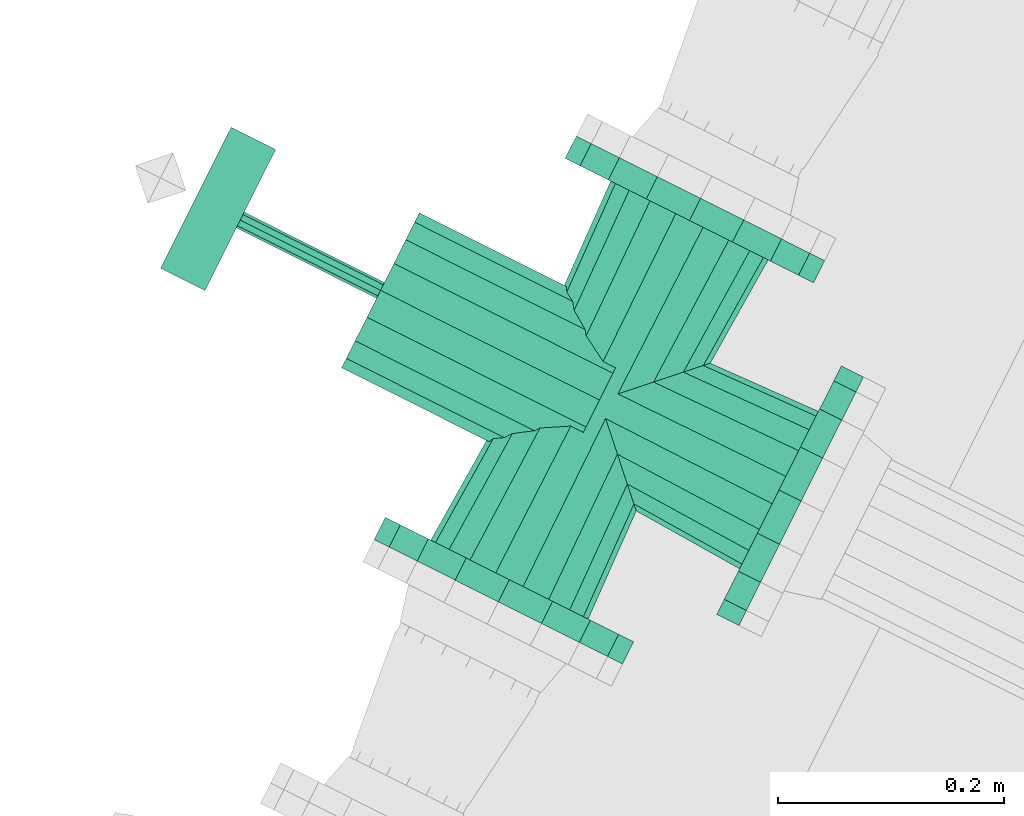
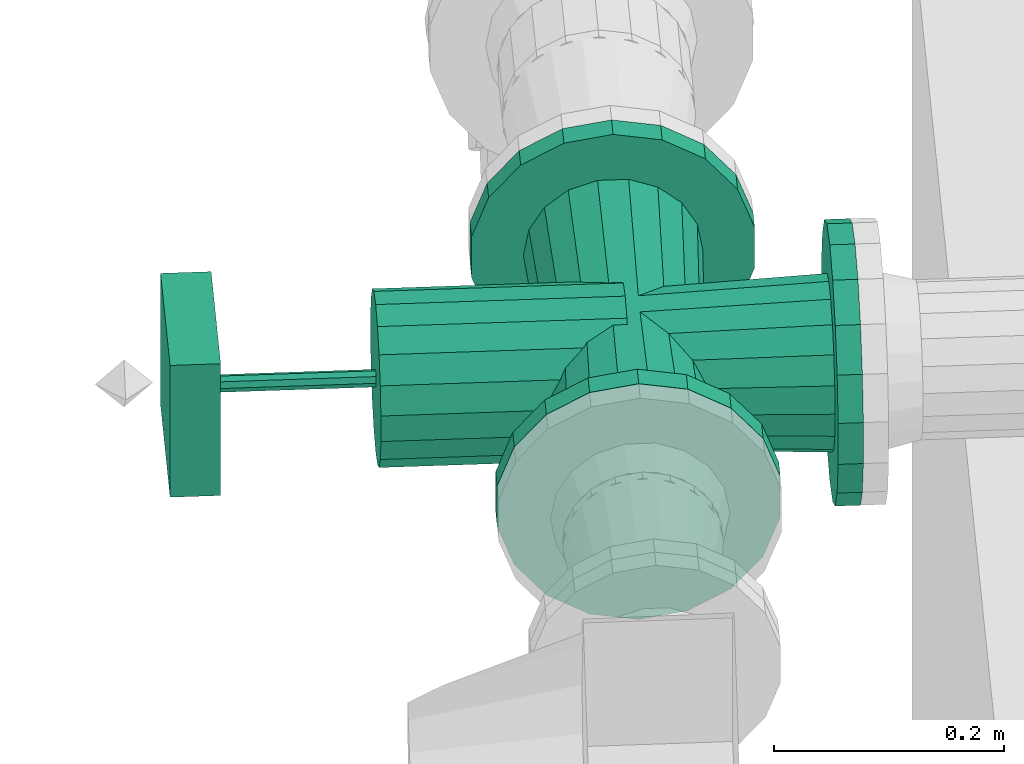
# One storey, part 118 of 206: 1 flow controller.
"""IFC2X3 building model written with IfcOpenShell, lengths in metres."""

from ifc_helpers import new_model, si_unit, derived_unit, direction, frame, origin, place, context, subcontext, project, spatial, face_set, surface_model, source, transform, mapped, material, type_object, type_shapes, element, save


model = new_model("IFC2X3")

# Units and contexts
model_context = context("Model", 3, precision=5.2338327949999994e-05, world=origin(), true_north=direction((0.0, 1.0)))
body_context = subcontext(model_context, "Body", "Model", "MODEL_VIEW")
ifc_project = project(units=[si_unit("LENGTHUNIT", "METRE"), si_unit("AREAUNIT", "SQUARE_METRE"), si_unit("VOLUMEUNIT", "CUBIC_METRE"), si_unit("MASSUNIT", "GRAM", prefix="KILO"), si_unit("PLANEANGLEUNIT", "RADIAN"), derived_unit("THERMALTRANSMITTANCEUNIT", [(si_unit("MASSUNIT", "GRAM", prefix="KILO"), 1), (si_unit("THERMODYNAMICTEMPERATUREUNIT", "KELVIN"), -1), (si_unit("TIMEUNIT", "SECOND"), -3)])], contexts=[model_context])

# Site, building, storey
site_placement = place(None, frame((0.0, 0.0, 0.0), z_axis=(0.0, 0.0, 1.0), x_axis=(0.8939966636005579, -0.4480736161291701, 0.0)))
site = spatial("IfcSite", under=ifc_project, at=site_placement, Name="Default", CompositionType="ELEMENT")
building_placement = place(site_placement, origin())
building = spatial("IfcBuilding", under=site, at=building_placement, CompositionType="ELEMENT")
storey_placement = place(building_placement, origin())
storey = spatial("IfcBuildingStorey", under=building, at=storey_placement, Name="Erdgeschoss", CompositionType="ELEMENT", Elevation=0.0)

# Flow controller
ifc_material = material(Name="IfcSurfaceStyle #1741")
distribution_element_type = type_object("IfcDistributionElementType", Name="Dreiwegeventil:Dreiwegeventil", material=ifc_material)
shared_shape = source(origin(), body_context, "Body", "SurfaceModel", [
    surface_model("IfcFaceBasedSurfaceModel", [(19.99498007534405, 6.5891110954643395, 2.42385), (19.99498007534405, 6.728811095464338, 2.42385), (19.99498007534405, 6.728811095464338, 2.2841500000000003), (19.99498007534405, 6.5891110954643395, 2.2841500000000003), (19.95098007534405, 6.728811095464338, 2.2841500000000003), (19.95098007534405, 6.5891110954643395, 2.2841500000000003), (19.95098007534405, 6.728811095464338, 2.42385), (19.95098007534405, 6.5891110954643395, 2.42385), (20.35098007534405, 6.45896109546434, 2.229), (20.30822755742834, 6.45896109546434, 2.236538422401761), (20.30822755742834, 6.480961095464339, 2.236538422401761), (20.35098007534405, 6.480961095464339, 2.229), (20.270631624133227, 6.45896109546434, 2.2582444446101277), (20.270631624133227, 6.480961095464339, 2.2582444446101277), (20.242726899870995, 6.45896109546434, 2.2915), (20.242726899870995, 6.480961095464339, 2.2915), (20.22787910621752, 6.45896109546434, 2.332293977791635), (20.22787910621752, 6.480961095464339, 2.332293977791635), (20.22787910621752, 6.45896109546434, 2.3757060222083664), (20.22787910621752, 6.480961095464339, 2.3757060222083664), (20.242726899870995, 6.45896109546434, 2.416499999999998), (20.242726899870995, 6.480961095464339, 2.416499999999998), (20.270631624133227, 6.45896109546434, 2.4497555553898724), (20.270631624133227, 6.480961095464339, 2.4497555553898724), (20.30822755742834, 6.45896109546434, 2.4714615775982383), (20.30822755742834, 6.480961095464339, 2.4714615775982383), (20.35098007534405, 6.45896109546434, 2.479), (20.35098007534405, 6.480961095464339, 2.479), (20.39373259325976, 6.45896109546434, 2.4714615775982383), (20.39373259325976, 6.480961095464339, 2.4714615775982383), (20.431328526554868, 6.45896109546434, 2.449755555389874), (20.431328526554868, 6.480961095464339, 2.449755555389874), (20.459233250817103, 6.45896109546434, 2.416499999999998), (20.459233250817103, 6.480961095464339, 2.416499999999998), (20.474081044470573, 6.45896109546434, 2.3757060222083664), (20.474081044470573, 6.480961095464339, 2.3757060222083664), (20.474081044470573, 6.45896109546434, 2.3322939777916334), (20.474081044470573, 6.480961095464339, 2.3322939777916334), (20.459233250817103, 6.45896109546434, 2.2915), (20.459233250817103, 6.480961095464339, 2.2915), (20.431328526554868, 6.45896109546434, 2.2582444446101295), (20.431328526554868, 6.480961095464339, 2.2582444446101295), (20.39373259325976, 6.45896109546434, 2.23653842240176), (20.39373259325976, 6.480961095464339, 2.23653842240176), (20.35098007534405, 6.458961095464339, 2.354), (20.35098007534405, 6.480961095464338, 2.354), (20.42898007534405, 6.480961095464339, 2.354), (20.42427609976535, 6.480961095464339, 2.327322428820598), (20.416617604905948, 6.65896109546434, 2.330109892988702), (20.420830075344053, 6.65896109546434, 2.3539999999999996), (20.41073154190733, 6.480961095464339, 2.3038625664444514), (20.404488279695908, 6.65896109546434, 2.309101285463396), (20.38998007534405, 6.480961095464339, 2.286450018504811), (20.38590507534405, 6.65896109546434, 2.293508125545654), (20.36452463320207, 6.480961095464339, 2.2771849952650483), (20.363109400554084, 6.65896109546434, 2.285211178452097), (20.337435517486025, 6.480961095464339, 2.277184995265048), (20.33885075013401, 6.65896109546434, 2.2852111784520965), (20.311980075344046, 6.480961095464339, 2.286450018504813), (20.316055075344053, 6.65896109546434, 2.293508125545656), (20.29122860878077, 6.480961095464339, 2.30386256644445), (20.297471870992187, 6.65896109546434, 2.3091012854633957), (20.277684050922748, 6.480961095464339, 2.3273224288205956), (20.285342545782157, 6.65896109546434, 2.330109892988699), (20.27298007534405, 6.480961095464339, 2.354), (20.28113007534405, 6.65896109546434, 2.3539999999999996), (20.277684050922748, 6.480961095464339, 2.380677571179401), (20.28534254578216, 6.65896109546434, 2.3778901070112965), (20.29122860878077, 6.480961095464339, 2.404137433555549), (20.29747187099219, 6.65896109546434, 2.398898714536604), (20.311980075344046, 6.480961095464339, 2.4215499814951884), (20.316055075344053, 6.65896109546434, 2.4144918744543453), (20.337435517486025, 6.480961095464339, 2.430815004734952), (20.33885075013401, 6.65896109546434, 2.4227888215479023), (20.36452463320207, 6.480961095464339, 2.4308150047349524), (20.363109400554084, 6.65896109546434, 2.4227888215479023), (20.38998007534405, 6.480961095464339, 2.4215499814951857), (20.38590507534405, 6.65896109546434, 2.414491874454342), (20.41073154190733, 6.480961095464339, 2.404137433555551), (20.404488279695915, 6.65896109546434, 2.3988987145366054), (20.42427609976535, 6.480961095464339, 2.380677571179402), (20.416617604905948, 6.65896109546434, 2.3778901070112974), (20.42427609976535, 6.836961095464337, 2.327322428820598), (20.42898007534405, 6.836961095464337, 2.354), (20.410731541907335, 6.836961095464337, 2.3038625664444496), (20.38998007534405, 6.836961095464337, 2.2864500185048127), (20.36452463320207, 6.836961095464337, 2.2771849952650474), (20.337435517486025, 6.836961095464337, 2.277184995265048), (20.311980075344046, 6.836961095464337, 2.2864500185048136), (20.29122860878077, 6.836961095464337, 2.3038625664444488), (20.277684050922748, 6.836961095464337, 2.3273224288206), (20.272980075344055, 6.836961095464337, 2.354), (20.277684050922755, 6.836961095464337, 2.3806775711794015), (20.29122860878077, 6.836961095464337, 2.4041374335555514), (20.311980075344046, 6.836961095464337, 2.4215499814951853), (20.337435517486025, 6.836961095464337, 2.430815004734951), (20.36452463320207, 6.836961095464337, 2.4308150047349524), (20.38998007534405, 6.836961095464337, 2.4215499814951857), (20.41073154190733, 6.836961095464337, 2.4041374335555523), (20.42427609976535, 6.836961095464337, 2.380677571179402), (20.35098007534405, 6.836961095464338, 2.229), (20.30822755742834, 6.836961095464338, 2.236538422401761), (20.30822755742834, 6.8589610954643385, 2.236538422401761), (20.35098007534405, 6.8589610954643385, 2.229), (20.270631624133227, 6.836961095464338, 2.2582444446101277), (20.270631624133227, 6.8589610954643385, 2.2582444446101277), (20.242726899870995, 6.836961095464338, 2.2915), (20.242726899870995, 6.8589610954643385, 2.2915), (20.22787910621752, 6.836961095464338, 2.332293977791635), (20.22787910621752, 6.8589610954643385, 2.332293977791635), (20.22787910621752, 6.836961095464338, 2.3757060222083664), (20.22787910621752, 6.8589610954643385, 2.3757060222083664), (20.242726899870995, 6.836961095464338, 2.416499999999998), (20.242726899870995, 6.8589610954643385, 2.416499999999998), (20.270631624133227, 6.836961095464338, 2.4497555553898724), (20.270631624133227, 6.8589610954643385, 2.4497555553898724), (20.30822755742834, 6.836961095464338, 2.4714615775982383), (20.30822755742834, 6.8589610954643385, 2.4714615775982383), (20.35098007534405, 6.836961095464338, 2.479), (20.35098007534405, 6.8589610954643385, 2.479), (20.39373259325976, 6.836961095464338, 2.4714615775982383), (20.39373259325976, 6.8589610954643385, 2.4714615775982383), (20.431328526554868, 6.836961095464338, 2.449755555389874), (20.431328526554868, 6.8589610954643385, 2.449755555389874), (20.459233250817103, 6.836961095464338, 2.416499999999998), (20.459233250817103, 6.8589610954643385, 2.416499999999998), (20.474081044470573, 6.836961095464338, 2.3757060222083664), (20.474081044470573, 6.8589610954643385, 2.3757060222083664), (20.474081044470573, 6.836961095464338, 2.3322939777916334), (20.474081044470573, 6.8589610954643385, 2.3322939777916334), (20.459233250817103, 6.836961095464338, 2.2915), (20.459233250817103, 6.8589610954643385, 2.2915), (20.431328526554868, 6.836961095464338, 2.2582444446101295), (20.431328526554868, 6.8589610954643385, 2.2582444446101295), (20.39373259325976, 6.836961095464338, 2.23653842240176), (20.39373259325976, 6.8589610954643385, 2.23653842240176), (20.35098007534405, 6.836961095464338, 2.354), (20.35098007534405, 6.858961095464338, 2.354), (20.35098007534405, 6.658961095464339, 2.276), (20.35098007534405, 6.6322835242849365, 2.2807039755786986), (20.133980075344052, 6.6322835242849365, 2.2807039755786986), (20.133980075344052, 6.658961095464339, 2.276), (20.35098007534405, 6.608823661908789, 2.2942485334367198), (20.133980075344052, 6.608823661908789, 2.2942485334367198), (20.35098007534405, 6.591411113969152, 2.315), (20.133980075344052, 6.591411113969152, 2.315), (20.35098007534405, 6.582146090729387, 2.3404554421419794), (20.133980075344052, 6.582146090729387, 2.3404554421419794), (20.35098007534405, 6.582146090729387, 2.3675445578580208), (20.133980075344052, 6.582146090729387, 2.3675445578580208), (20.35098007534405, 6.591411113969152, 2.3930000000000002), (20.133980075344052, 6.591411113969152, 2.3930000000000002), (20.35098007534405, 6.608823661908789, 2.4137514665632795), (20.133980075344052, 6.608823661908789, 2.4137514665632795), (20.35098007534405, 6.6322835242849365, 2.427296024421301), (20.133980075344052, 6.6322835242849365, 2.427296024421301), (20.35098007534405, 6.658961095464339, 2.4319999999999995), (20.133980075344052, 6.658961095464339, 2.4319999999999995), (20.35098007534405, 6.685638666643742, 2.427296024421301), (20.133980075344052, 6.685638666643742, 2.427296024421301), (20.35098007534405, 6.709098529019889, 2.41375146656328), (20.133980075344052, 6.709098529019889, 2.41375146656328), (20.35098007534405, 6.726511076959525, 2.3930000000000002), (20.133980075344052, 6.726511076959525, 2.3930000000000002), (20.35098007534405, 6.73577610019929, 2.3675445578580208), (20.133980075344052, 6.73577610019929, 2.3675445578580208), (20.35098007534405, 6.73577610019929, 2.3404554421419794), (20.133980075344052, 6.73577610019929, 2.3404554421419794), (20.35098007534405, 6.726511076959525, 2.315), (20.133980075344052, 6.726511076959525, 2.315), (20.35098007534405, 6.709098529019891, 2.2942485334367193), (20.133980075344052, 6.709098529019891, 2.2942485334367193), (20.35098007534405, 6.685638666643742, 2.280703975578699), (20.133980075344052, 6.685638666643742, 2.280703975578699), (20.35098007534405, 6.658961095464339, 2.354), (20.133980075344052, 6.658961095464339, 2.354), (20.133980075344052, 6.658961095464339, 2.3462), (20.133980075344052, 6.653445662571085, 2.348484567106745), (19.99498007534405, 6.653445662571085, 2.348484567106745), (19.99498007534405, 6.658961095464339, 2.3462), (20.133980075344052, 6.65116109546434, 2.3539999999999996), (19.99498007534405, 6.65116109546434, 2.3539999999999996), (20.133980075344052, 6.653445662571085, 2.359515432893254), (19.99498007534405, 6.653445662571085, 2.359515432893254), (20.133980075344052, 6.658961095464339, 2.3617999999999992), (19.99498007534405, 6.658961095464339, 2.3617999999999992), (20.133980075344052, 6.664476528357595, 2.359515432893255), (19.99498007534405, 6.664476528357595, 2.359515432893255), (20.133980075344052, 6.666761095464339, 2.3540000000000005), (19.99498007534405, 6.666761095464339, 2.3540000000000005), (20.133980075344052, 6.664476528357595, 2.3484845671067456), (19.99498007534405, 6.664476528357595, 2.3484845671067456), (19.99498007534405, 6.658961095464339, 2.354), (20.35098007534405, 6.5891110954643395, 2.354), (20.35098007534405, 6.593323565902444, 2.3301098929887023), (20.528980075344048, 6.585665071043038, 2.327322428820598), (20.528980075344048, 6.580961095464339, 2.3540000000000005), (20.35098007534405, 6.605452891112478, 2.3091012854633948), (20.528980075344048, 6.599209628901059, 2.303862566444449), (20.35098007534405, 6.624036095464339, 2.2935081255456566), (20.528980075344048, 6.619961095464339, 2.286450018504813), (20.35098007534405, 6.646831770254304, 2.285211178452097), (20.528980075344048, 6.6454165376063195, 2.277184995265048), (20.35098007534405, 6.671090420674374, 2.285211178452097), (20.528980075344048, 6.672505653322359, 2.277184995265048), (20.35098007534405, 6.6938860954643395, 2.2935081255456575), (20.528980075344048, 6.69796109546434, 2.286450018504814), (20.35098007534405, 6.7124692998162, 2.309101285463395), (20.528980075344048, 6.718712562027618, 2.30386256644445), (20.35098007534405, 6.724598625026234, 2.330109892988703), (20.528980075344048, 6.73225711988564, 2.3273224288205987), (20.35098007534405, 6.728811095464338, 2.354), (20.528980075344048, 6.7369610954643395, 2.354), (20.35098007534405, 6.724598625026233, 2.3778901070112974), (20.528980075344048, 6.732257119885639, 2.3806775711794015), (20.35098007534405, 6.7124692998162, 2.3988987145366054), (20.528980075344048, 6.718712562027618, 2.4041374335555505), (20.35098007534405, 6.6938860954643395, 2.414491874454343), (20.528980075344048, 6.69796109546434, 2.4215499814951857), (20.35098007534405, 6.671090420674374, 2.4227888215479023), (20.528980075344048, 6.672505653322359, 2.430815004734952), (20.35098007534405, 6.646831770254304, 2.4227888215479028), (20.528980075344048, 6.6454165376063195, 2.4308150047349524), (20.35098007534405, 6.624036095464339, 2.414491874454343), (20.528980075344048, 6.619961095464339, 2.4215499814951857), (20.35098007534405, 6.6054528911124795, 2.3988987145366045), (20.528980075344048, 6.59920962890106, 2.4041374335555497), (20.35098007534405, 6.593323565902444, 2.3778901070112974), (20.528980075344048, 6.585665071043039, 2.3806775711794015), (20.528980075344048, 6.658961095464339, 2.229), (20.528980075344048, 6.701713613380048, 2.236538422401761), (20.550980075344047, 6.701713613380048, 2.236538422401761), (20.550980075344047, 6.658961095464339, 2.229), (20.528980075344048, 6.739309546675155, 2.2582444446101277), (20.550980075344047, 6.739309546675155, 2.2582444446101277), (20.528980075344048, 6.7672142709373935, 2.291499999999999), (20.550980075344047, 6.7672142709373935, 2.291499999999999), (20.528980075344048, 6.782062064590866, 2.332293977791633), (20.550980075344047, 6.782062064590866, 2.332293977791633), (20.528980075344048, 6.782062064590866, 2.3757060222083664), (20.550980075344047, 6.782062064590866, 2.3757060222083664), (20.528980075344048, 6.7672142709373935, 2.4165000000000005), (20.550980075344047, 6.7672142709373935, 2.4165000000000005), (20.528980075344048, 6.739309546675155, 2.4497555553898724), (20.550980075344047, 6.739309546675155, 2.4497555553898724), (20.528980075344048, 6.701713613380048, 2.4714615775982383), (20.550980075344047, 6.701713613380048, 2.4714615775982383), (20.528980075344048, 6.658961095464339, 2.479), (20.550980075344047, 6.658961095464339, 2.479), (20.528980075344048, 6.616208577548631, 2.4714615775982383), (20.550980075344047, 6.616208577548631, 2.4714615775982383), (20.528980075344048, 6.578612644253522, 2.4497555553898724), (20.550980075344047, 6.578612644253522, 2.4497555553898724), (20.528980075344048, 6.550707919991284, 2.4165000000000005), (20.550980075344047, 6.550707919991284, 2.4165000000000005), (20.528980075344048, 6.535860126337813, 2.3757060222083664), (20.550980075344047, 6.535860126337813, 2.3757060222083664), (20.528980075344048, 6.535860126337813, 2.3322939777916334), (20.550980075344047, 6.535860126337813, 2.3322939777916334), (20.528980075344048, 6.550707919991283, 2.2914999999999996), (20.550980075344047, 6.550707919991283, 2.2914999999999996), (20.528980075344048, 6.578612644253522, 2.2582444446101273), (20.550980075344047, 6.578612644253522, 2.2582444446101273), (20.528980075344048, 6.616208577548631, 2.2365384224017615), (20.550980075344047, 6.616208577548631, 2.2365384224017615), (20.528980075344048, 6.658961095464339, 2.354), (20.550980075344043, 6.658961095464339, 2.354)], [face_set([[[0, 1, 2, 3]], [[3, 2, 4, 5]], [[5, 4, 6, 7]], [[7, 6, 1, 0]], [[0, 3, 5, 7]], [[6, 4, 2, 1]], [[8, 9, 10, 11]], [[9, 12, 13, 10]], [[12, 14, 15, 13]], [[14, 16, 17, 15]], [[16, 18, 19, 17]], [[18, 20, 21, 19]], [[20, 22, 23, 21]], [[22, 24, 25, 23]], [[24, 26, 27, 25]], [[26, 28, 29, 27]], [[28, 30, 31, 29]], [[30, 32, 33, 31]], [[32, 34, 35, 33]], [[34, 36, 37, 35]], [[36, 38, 39, 37]], [[38, 40, 41, 39]], [[40, 42, 43, 41]], [[42, 8, 11, 43]], [[44, 9, 8]], [[44, 12, 9]], [[44, 14, 12]], [[44, 16, 14]], [[44, 18, 16]], [[44, 20, 18]], [[44, 22, 20]], [[44, 24, 22]], [[44, 26, 24]], [[44, 28, 26]], [[44, 30, 28]], [[44, 32, 30]], [[44, 34, 32]], [[44, 36, 34]], [[44, 38, 36]], [[44, 40, 38]], [[44, 42, 40]], [[44, 8, 42]], [[45, 43, 11]], [[45, 41, 43]], [[45, 39, 41]], [[45, 37, 39]], [[45, 35, 37]], [[45, 33, 35]], [[45, 31, 33]], [[45, 29, 31]], [[45, 27, 29]], [[45, 25, 27]], [[45, 23, 25]], [[45, 21, 23]], [[45, 19, 21]], [[45, 17, 19]], [[45, 15, 17]], [[45, 13, 15]], [[45, 10, 13]], [[45, 11, 10]], [[46, 47, 48, 49]], [[47, 50, 51, 48]], [[50, 52, 53, 51]], [[52, 54, 55, 53]], [[54, 56, 57, 55]], [[56, 58, 59, 57]], [[58, 60, 61, 59]], [[60, 62, 63, 61]], [[62, 64, 65, 63]], [[64, 66, 67, 65]], [[66, 68, 69, 67]], [[68, 70, 71, 69]], [[70, 72, 73, 71]], [[72, 74, 75, 73]], [[74, 76, 77, 75]], [[76, 78, 79, 77]], [[78, 80, 81, 79]], [[80, 46, 49, 81]], [[49, 48, 82, 83]], [[48, 51, 84, 82]], [[51, 53, 85, 84]], [[53, 55, 86, 85]], [[55, 57, 87, 86]], [[57, 59, 88, 87]], [[59, 61, 89, 88]], [[61, 63, 90, 89]], [[63, 65, 91, 90]], [[65, 67, 92, 91]], [[67, 69, 93, 92]], [[69, 71, 94, 93]], [[71, 73, 95, 94]], [[73, 75, 96, 95]], [[75, 77, 97, 96]], [[77, 79, 98, 97]], [[79, 81, 99, 98]], [[81, 49, 83, 99]], [[100, 101, 102, 103]], [[101, 104, 105, 102]], [[104, 106, 107, 105]], [[106, 108, 109, 107]], [[108, 110, 111, 109]], [[110, 112, 113, 111]], [[112, 114, 115, 113]], [[114, 116, 117, 115]], [[116, 118, 119, 117]], [[118, 120, 121, 119]], [[120, 122, 123, 121]], [[122, 124, 125, 123]], [[124, 126, 127, 125]], [[126, 128, 129, 127]], [[128, 130, 131, 129]], [[130, 132, 133, 131]], [[132, 134, 135, 133]], [[134, 100, 103, 135]], [[136, 101, 100]], [[136, 104, 101]], [[136, 106, 104]], [[136, 108, 106]], [[136, 110, 108]], [[136, 112, 110]], [[136, 114, 112]], [[136, 116, 114]], [[136, 118, 116]], [[136, 120, 118]], [[136, 122, 120]], [[136, 124, 122]], [[136, 126, 124]], [[136, 128, 126]], [[136, 130, 128]], [[136, 132, 130]], [[136, 134, 132]], [[136, 100, 134]], [[137, 135, 103]], [[137, 133, 135]], [[137, 131, 133]], [[137, 129, 131]], [[137, 127, 129]], [[137, 125, 127]], [[137, 123, 125]], [[137, 121, 123]], [[137, 119, 121]], [[137, 117, 119]], [[137, 115, 117]], [[137, 113, 115]], [[137, 111, 113]], [[137, 109, 111]], [[137, 107, 109]], [[137, 105, 107]], [[137, 102, 105]], [[137, 103, 102]], [[138, 139, 140, 141]], [[139, 142, 143, 140]], [[142, 144, 145, 143]], [[144, 146, 147, 145]], [[146, 148, 149, 147]], [[148, 150, 151, 149]], [[150, 152, 153, 151]], [[152, 154, 155, 153]], [[154, 156, 157, 155]], [[156, 158, 159, 157]], [[158, 160, 161, 159]], [[160, 162, 163, 161]], [[162, 164, 165, 163]], [[164, 166, 167, 165]], [[166, 168, 169, 167]], [[168, 170, 171, 169]], [[170, 172, 173, 171]], [[172, 138, 141, 173]], [[174, 139, 138]], [[174, 142, 139]], [[174, 144, 142]], [[174, 146, 144]], [[174, 148, 146]], [[174, 150, 148]], [[174, 152, 150]], [[174, 154, 152]], [[174, 156, 154]], [[174, 158, 156]], [[174, 160, 158]], [[174, 162, 160]], [[174, 164, 162]], [[174, 166, 164]], [[174, 168, 166]], [[174, 170, 168]], [[174, 172, 170]], [[174, 138, 172]], [[175, 173, 141]], [[175, 171, 173]], [[175, 169, 171]], [[175, 167, 169]], [[175, 165, 167]], [[175, 163, 165]], [[175, 161, 163]], [[175, 159, 161]], [[175, 157, 159]], [[175, 155, 157]], [[175, 153, 155]], [[175, 151, 153]], [[175, 149, 151]], [[175, 147, 149]], [[175, 145, 147]], [[175, 143, 145]], [[175, 140, 143]], [[175, 141, 140]], [[176, 177, 178, 179]], [[177, 180, 181, 178]], [[180, 182, 183, 181]], [[182, 184, 185, 183]], [[184, 186, 187, 185]], [[186, 188, 189, 187]], [[188, 190, 191, 189]], [[190, 176, 179, 191]], [[192, 191, 179]], [[192, 189, 191]], [[192, 187, 189]], [[192, 185, 187]], [[192, 183, 185]], [[192, 181, 183]], [[192, 178, 181]], [[192, 179, 178]], [[193, 194, 195, 196]], [[194, 197, 198, 195]], [[197, 199, 200, 198]], [[199, 201, 202, 200]], [[201, 203, 204, 202]], [[203, 205, 206, 204]], [[205, 207, 208, 206]], [[207, 209, 210, 208]], [[209, 211, 212, 210]], [[211, 213, 214, 212]], [[213, 215, 216, 214]], [[215, 217, 218, 216]], [[217, 219, 220, 218]], [[219, 221, 222, 220]], [[221, 223, 224, 222]], [[223, 225, 226, 224]], [[225, 227, 228, 226]], [[227, 193, 196, 228]], [[229, 230, 231, 232]], [[230, 233, 234, 231]], [[233, 235, 236, 234]], [[235, 237, 238, 236]], [[237, 239, 240, 238]], [[239, 241, 242, 240]], [[241, 243, 244, 242]], [[243, 245, 246, 244]], [[245, 247, 248, 246]], [[247, 249, 250, 248]], [[249, 251, 252, 250]], [[251, 253, 254, 252]], [[253, 255, 256, 254]], [[255, 257, 258, 256]], [[257, 259, 260, 258]], [[259, 261, 262, 260]], [[261, 263, 264, 262]], [[263, 229, 232, 264]], [[265, 230, 229]], [[265, 233, 230]], [[265, 235, 233]], [[265, 237, 235]], [[265, 239, 237]], [[265, 241, 239]], [[265, 243, 241]], [[265, 245, 243]], [[265, 247, 245]], [[265, 249, 247]], [[265, 251, 249]], [[265, 253, 251]], [[265, 255, 253]], [[265, 257, 255]], [[265, 259, 257]], [[265, 261, 259]], [[265, 263, 261]], [[265, 229, 263]], [[266, 264, 232]], [[266, 262, 264]], [[266, 260, 262]], [[266, 258, 260]], [[266, 256, 258]], [[266, 254, 256]], [[266, 252, 254]], [[266, 250, 252]], [[266, 248, 250]], [[266, 246, 248]], [[266, 244, 246]], [[266, 242, 244]], [[266, 240, 242]], [[266, 238, 240]], [[266, 236, 238]], [[266, 234, 236]], [[266, 231, 234]], [[266, 232, 231]]])]),
])
type_shapes(distribution_element_type, [shared_shape])
flow_controller_placement = place(storey_placement, origin())
element("IfcFlowController", 1, at=flow_controller_placement, inside=storey, type_object=distribution_element_type, material=ifc_material, Name="Dreiwegeventil", ObjectType="Dreiwegeventil", context=body_context, shape_type="MappedRepresentation", body=[
    mapped(shared_shape, transform((0.0, 0.0, 0.0), scale=1.0)),
])

save(model, "model.ifc")
